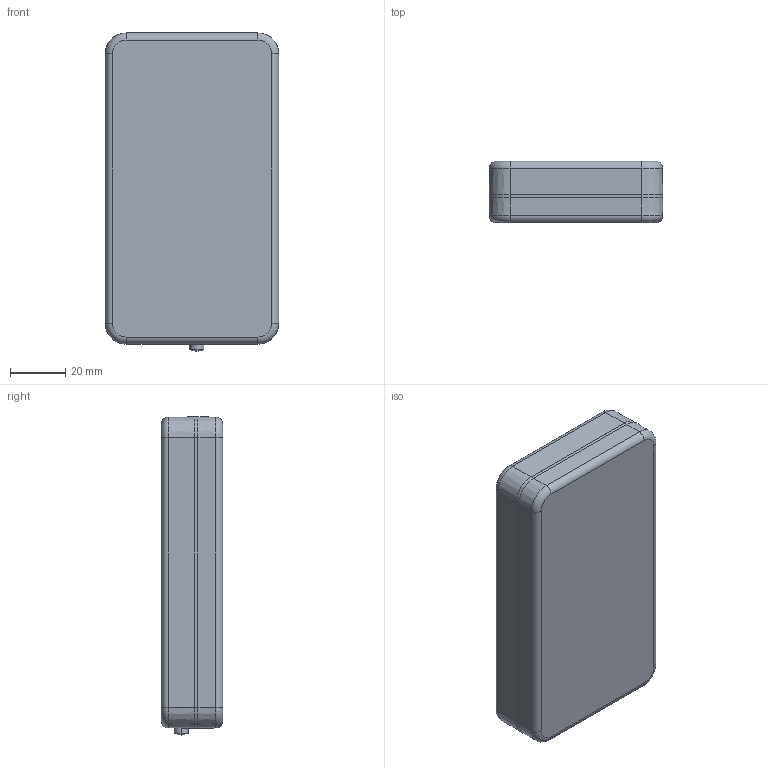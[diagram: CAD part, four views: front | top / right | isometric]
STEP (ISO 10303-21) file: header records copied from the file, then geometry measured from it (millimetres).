
FILE_DESCRIPTION (( 'STEP AP203' ), '1' );
FILE_NAME ('Case150Top.STEP', '2015-02-03T22:14:14', ( '' ), ( '' ), 'SwSTEP 2.0', 'SolidWorks 2014', '' );
FILE_SCHEMA (( 'CONFIG_CONTROL_DESIGN' ));
Length unit declared in the file: inch
Products named in the file (1): Case150Top
Bounding box: 63.12 x 22.28 x 115.66 mm (x, y, z)
Volume: 88324.6 mm3; surface area: 60524.4 mm2
Topology: 11 solids, 11 shells, 398 faces, 1014 edges, 657 vertices
Faces by surface type: plane 214, cylinder 109, bspline 33, torus 24, cone 16, sphere 2
Entity records: 12903 total; most frequent: CARTESIAN_POINT 3141, ORIENTED_EDGE 2028, DIRECTION 1962, EDGE_CURVE 1014, VECTOR 662, LINE 662, VERTEX_POINT 657, AXIS2_PLACEMENT_3D 650
